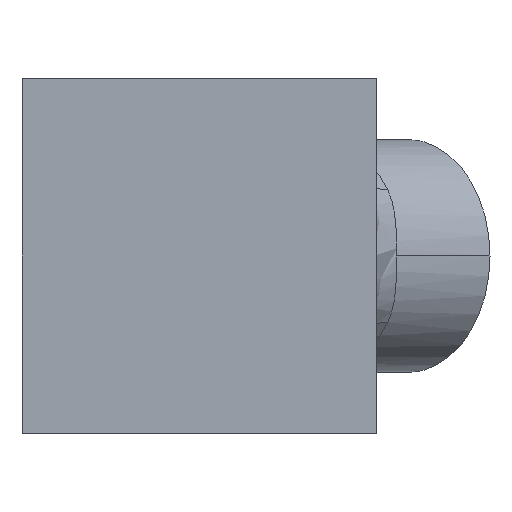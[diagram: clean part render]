
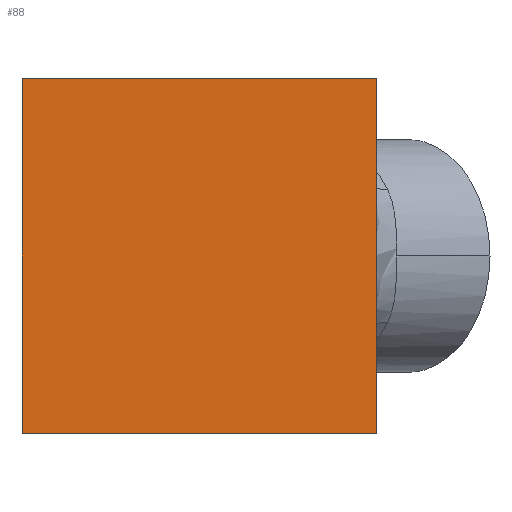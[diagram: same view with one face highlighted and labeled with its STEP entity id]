
A CAD part, left-side view. The second image highlights one B-rep face of the part: STEP entity #88.
In plain terms, the highlighted planar face has unit normal (-1, 0, 0).
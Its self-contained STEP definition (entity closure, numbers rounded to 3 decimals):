
#63 = LINE ( 'NONE', #136, #232 ) ;
#74 = CARTESIAN_POINT ( 'NONE',  ( 0., 0., 20. ) ) ;
#88 = ADVANCED_FACE ( 'NONE', ( #618 ), #127, .F. ) ;
#90 = VERTEX_POINT ( 'NONE', #132 ) ;
#97 = ORIENTED_EDGE ( 'NONE', *, *, #134, .T. ) ;
#109 = VECTOR ( 'NONE', #222, 1000. ) ;
#127 = PLANE ( 'NONE',  #723 ) ;
#132 = CARTESIAN_POINT ( 'NONE',  ( 0., 20., 0. ) ) ;
#134 = EDGE_CURVE ( 'NONE', #90, #713, #63, .T. ) ;
#136 = CARTESIAN_POINT ( 'NONE',  ( 0., 0., 0. ) ) ;
#155 = VERTEX_POINT ( 'NONE', #74 ) ;
#158 = EDGE_CURVE ( 'NONE', #155, #713, #762, .T. ) ;
#180 = DIRECTION ( 'NONE',  ( 0., 0., -1. ) ) ;
#213 = CARTESIAN_POINT ( 'NONE',  ( 0., 0., 20. ) ) ;
#222 = DIRECTION ( 'NONE',  ( 0., -1., 0. ) ) ;
#232 = VECTOR ( 'NONE', #649, 1000. ) ;
#235 = EDGE_CURVE ( 'NONE', #798, #155, #672, .T. ) ;
#240 = ORIENTED_EDGE ( 'NONE', *, *, #894, .T. ) ;
#270 = DIRECTION ( 'NONE',  ( 0., 0., -1. ) ) ;
#285 = DIRECTION ( 'NONE',  ( 0., 0., -1. ) ) ;
#403 = EDGE_LOOP ( 'NONE', ( #97, #760, #637, #240 ) ) ;
#444 = CARTESIAN_POINT ( 'NONE',  ( 0., 20., 20. ) ) ;
#497 = CARTESIAN_POINT ( 'NONE',  ( 0., 0., 20. ) ) ;
#538 = LINE ( 'NONE', #694, #901 ) ;
#618 = FACE_OUTER_BOUND ( 'NONE', #403, .T. ) ;
#637 = ORIENTED_EDGE ( 'NONE', *, *, #235, .F. ) ;
#649 = DIRECTION ( 'NONE',  ( 0., -1., 0. ) ) ;
#672 = LINE ( 'NONE', #809, #109 ) ;
#694 = CARTESIAN_POINT ( 'NONE',  ( 0., 20., 20. ) ) ;
#713 = VERTEX_POINT ( 'NONE', #736 ) ;
#723 = AXIS2_PLACEMENT_3D ( 'NONE', #497, #867, #270 ) ;
#736 = CARTESIAN_POINT ( 'NONE',  ( 0., 0., 0. ) ) ;
#760 = ORIENTED_EDGE ( 'NONE', *, *, #158, .F. ) ;
#762 = LINE ( 'NONE', #213, #816 ) ;
#798 = VERTEX_POINT ( 'NONE', #444 ) ;
#809 = CARTESIAN_POINT ( 'NONE',  ( 0., 0., 20. ) ) ;
#816 = VECTOR ( 'NONE', #285, 1000. ) ;
#867 = DIRECTION ( 'NONE',  ( 1., 0., 0. ) ) ;
#894 = EDGE_CURVE ( 'NONE', #798, #90, #538, .T. ) ;
#901 = VECTOR ( 'NONE', #180, 1000. ) ;
